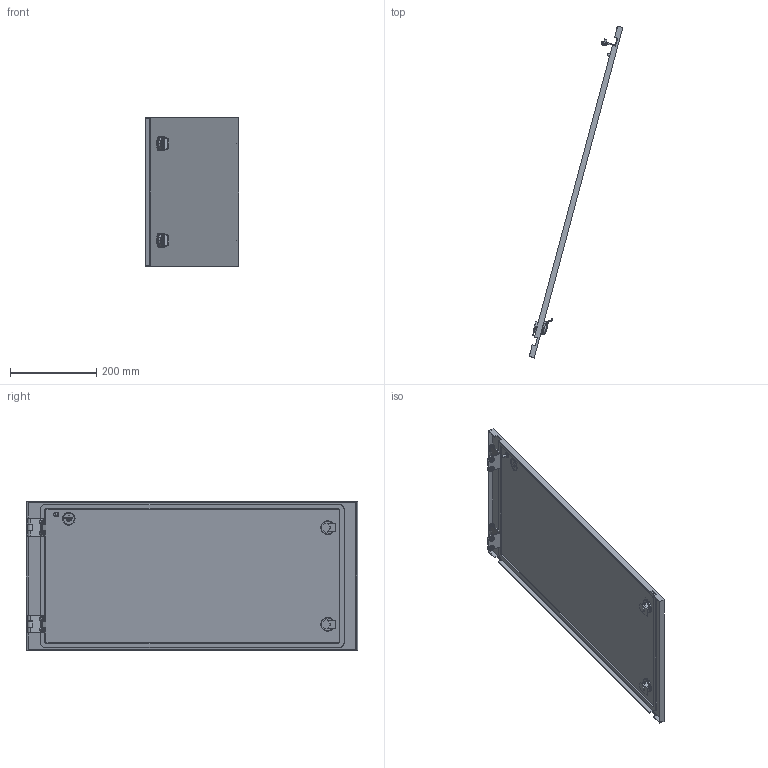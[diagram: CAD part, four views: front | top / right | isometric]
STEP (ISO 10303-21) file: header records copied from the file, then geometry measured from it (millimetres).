
FILE_DESCRIPTION (( 'STEP AP214' ), '1' );
FILE_NAME ('FO-00-ESD-035-080 Äâåðü ñåêöèîííàÿ âíåøíÿÿ 350õ800 ìì.STEP', '2025-08-20T06:26:47', ( '' ), ( '' ), 'SwSTEP 2.0', 'SolidWorks 2023', '' );
FILE_SCHEMA (( 'AUTOMOTIVE_DESIGN' ));
Length unit declared in the file: millimetre
Products named in the file (4): Петля_6.STEP; FO-00-ESD-035-080 Дверь секционная внешняя 350х800 мм; Дверь секционная внешняя 350х800 мм.STEP; FO-00-ESD-035-080 Дверь секционная внешняя 350х800 мм.STEP
Assembly tree (4 placements, depth 3):
  FO-00-ESD-035-080 Дверь секционная внешняя 350х800 мм
    FO-00-ESD-035-080 Дверь секционная внешняя 350х800 мм.STEP
      Дверь секционная внешняя 350х800 мм.STEP
      Петля_6.STEP  x2
Bounding box: 217.64 x 771.19 x 346 mm (x, y, z)
Volume: 724095.8 mm3; surface area: 640869.8 mm2
Topology: 3 solids, 12 shells, 707 faces, 1809 edges, 1168 vertices
Faces by surface type: plane 343, cylinder 268, torus 34, cone 32, bspline 30
Entity records: 20694 total; most frequent: CARTESIAN_POINT 5778, ORIENTED_EDGE 3108, DIRECTION 3078, EDGE_CURVE 1554, AXIS2_PLACEMENT_3D 1056, VERTEX_POINT 1006, LINE 966, VECTOR 966
